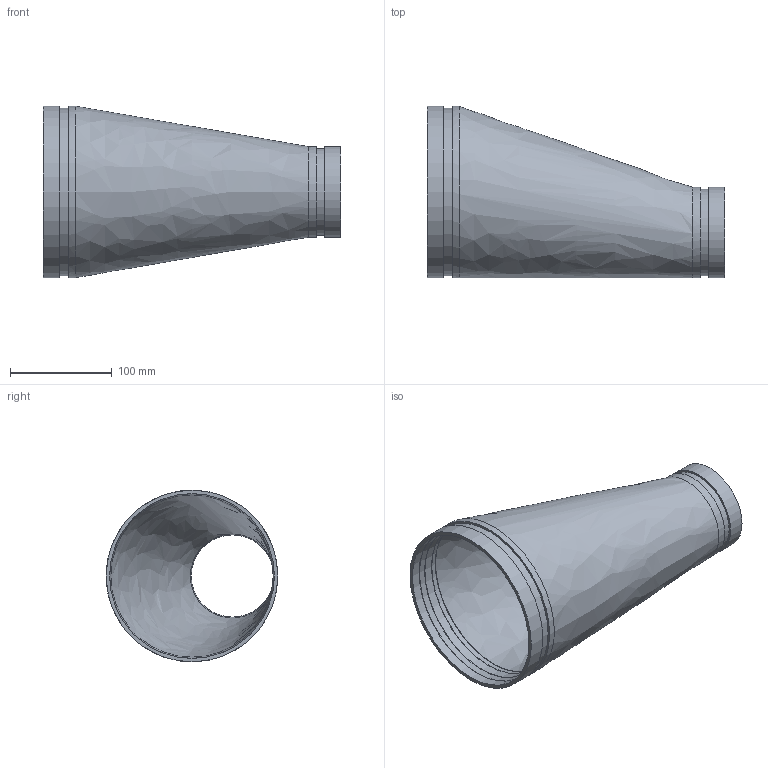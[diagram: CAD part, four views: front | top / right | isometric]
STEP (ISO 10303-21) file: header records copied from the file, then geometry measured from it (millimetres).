
FILE_DESCRIPTION(/* description */ ('VIC REDUCER ECCENTRIC No 451H-SS','CAx-IF Rec.Pracs.---Representation and Presentation of Product Manufacturing Information (PMI)---4.0---2014-10-13'),/* implementation_level */ '2;1');
FILE_NAME(/* name */ 'C:\Users\kkamble\AppData\Roaming\Autodesk\ApplicationPlugins\Back Up\Victaulic_SS-OGS_Reducer Eccentric_Sched 40S_No 451H SS (OGS)\Victaulic_SS-OGS_Reducer Eccentric_Sched 40S_No 451H SS (OGS)_06.0x03.0 (150x80).stp',/* time_stamp */ '2020-08-25T18:05:56+06:00',/* author */ ('CORINNE GRAY'),/* organization */ ('Victaulic'),/* preprocessor_version */ 'ST-DEVELOPER v17.2',/* originating_system */ 'Autodesk Inventor 2019',/* authorisation */ '');
FILE_SCHEMA (('AP242_MANAGED_MODEL_BASED_3D_ENGINEERING_MIM_LF { 1 0 10303 442 1 1 4 }'));
Length unit declared in the file: inch
Products named in the file (1): 451H SS-06.0x03.0
Bounding box: 292.1 x 168.28 x 168.28 mm (x, y, z)
Volume: 370364.6 mm3; surface area: 239703.1 mm2
Topology: 1 solids, 1 shells, 32 faces, 111 edges, 85 vertices
Faces by surface type: cylinder 12, torus 8, plane 6, cone 4, bspline 2
Full cylindrical faces by diameter (mm): 80.67 x1, 82.804 x2, 84.938 x1, 88.9 x2, 159.131 x1, 161.544 x2, 163.957 x1, 168.275 x2
Entity records: 1504 total; most frequent: DIRECTION 290, CARTESIAN_POINT 282, ORIENTED_EDGE 222, AXIS2_PLACEMENT_3D 137, EDGE_CURVE 111, CIRCLE 93, VERTEX_POINT 85, EDGE_LOOP 38
